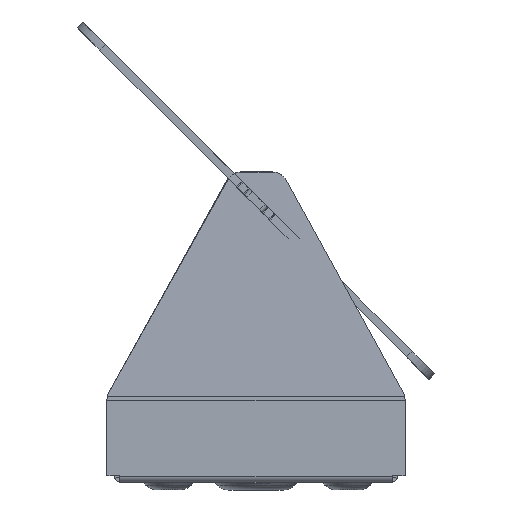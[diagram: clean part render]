
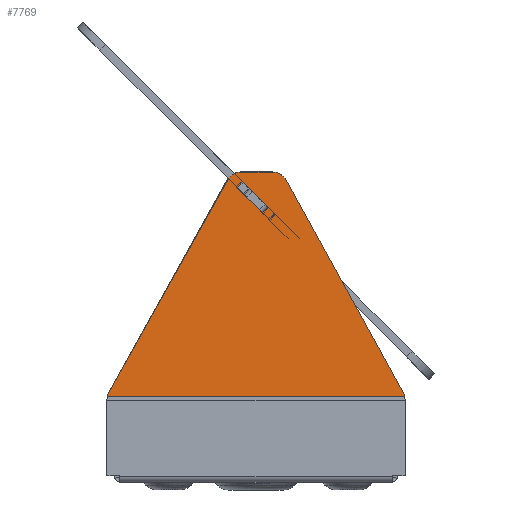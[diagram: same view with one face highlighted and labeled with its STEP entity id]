
A CAD part, left-side view. The second image highlights one B-rep face of the part: STEP entity #7769.
In plain terms, the highlighted planar face has unit normal (-0.999, 0, 0.035).
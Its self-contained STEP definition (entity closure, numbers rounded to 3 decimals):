
#185 = DIRECTION ( 'NONE',  ( -0.035, 0., -0.999 ) ) ;
#370 = CARTESIAN_POINT ( 'NONE',  ( -159.696, -33.5, 20.525 ) ) ;
#527 = EDGE_CURVE ( 'NONE', #3625, #4977, #3661, .T. ) ;
#650 = DIRECTION ( 'NONE',  ( 0., -1., 0. ) ) ;
#734 = AXIS2_PLACEMENT_3D ( 'NONE', #2221, #2433, #2550 ) ;
#777 = CARTESIAN_POINT ( 'NONE',  ( -159.66, 37.5, 21.551 ) ) ;
#843 = LINE ( 'NONE', #777, #9489 ) ;
#1007 = EDGE_CURVE ( 'NONE', #4609, #4448, #1403, .T. ) ;
#1096 = LINE ( 'NONE', #1175, #9474 ) ;
#1175 = CARTESIAN_POINT ( 'NONE',  ( -159.659, 37.5, 21.576 ) ) ;
#1403 = CIRCLE ( 'NONE', #1431, 4. ) ;
#1431 = AXIS2_PLACEMENT_3D ( 'NONE', #2911, #8774, #3775 ) ;
#1455 = ORIENTED_EDGE ( 'NONE', *, *, #7277, .T. ) ;
#1505 = DIRECTION ( 'NONE',  ( -0.035, 0., -0.999 ) ) ;
#1915 = EDGE_LOOP ( 'NONE', ( #3419, #1455, #5306, #4728, #9329, #3934, #3586, #8441 ) ) ;
#1928 = VERTEX_POINT ( 'NONE', #10488 ) ;
#2221 = CARTESIAN_POINT ( 'NONE',  ( -159.696, 33.5, 20.511 ) ) ;
#2433 = DIRECTION ( 'NONE',  ( -0.999, 0., 0.035 ) ) ;
#2550 = DIRECTION ( 'NONE',  ( -0.035, 0., -0.999 ) ) ;
#2552 = CARTESIAN_POINT ( 'NONE',  ( -157.692, -6.5, 77.917 ) ) ;
#2622 = DIRECTION ( 'NONE',  ( 0.999, 0., -0.035 ) ) ;
#2787 = CARTESIAN_POINT ( 'NONE',  ( -159.659, -37.359, 21.576 ) ) ;
#2911 = CARTESIAN_POINT ( 'NONE',  ( -157.831, 3.652, 73.92 ) ) ;
#2972 = CARTESIAN_POINT ( 'NONE',  ( -159.629, -37.005, 22.451 ) ) ;
#3419 = ORIENTED_EDGE ( 'NONE', *, *, #527, .T. ) ;
#3441 = VECTOR ( 'NONE', #650, 1000. ) ;
#3586 = ORIENTED_EDGE ( 'NONE', *, *, #1007, .T. ) ;
#3625 = VERTEX_POINT ( 'NONE', #5067 ) ;
#3661 = CIRCLE ( 'NONE', #734, 4. ) ;
#3775 = DIRECTION ( 'NONE',  ( -0.035, 0., -0.999 ) ) ;
#3934 = ORIENTED_EDGE ( 'NONE', *, *, #4089, .F. ) ;
#4089 = EDGE_CURVE ( 'NONE', #4609, #5805, #10110, .T. ) ;
#4161 = DIRECTION ( 'NONE',  ( -0.999, 0., 0.035 ) ) ;
#4373 = CARTESIAN_POINT ( 'NONE',  ( -160.358, 37.5, 1.564 ) ) ;
#4448 = VERTEX_POINT ( 'NONE', #9193 ) ;
#4567 = CARTESIAN_POINT ( 'NONE',  ( -157.692, -4.134, 77.917 ) ) ;
#4609 = VERTEX_POINT ( 'NONE', #5305 ) ;
#4728 = ORIENTED_EDGE ( 'NONE', *, *, #5244, .F. ) ;
#4977 = VERTEX_POINT ( 'NONE', #5475 ) ;
#5067 = CARTESIAN_POINT ( 'NONE',  ( -159.628, 36.992, 22.46 ) ) ;
#5192 = PLANE ( 'NONE',  #9461 ) ;
#5244 = EDGE_CURVE ( 'NONE', #1928, #6412, #8873, .T. ) ;
#5305 = CARTESIAN_POINT ( 'NONE',  ( -157.692, 3.652, 77.917 ) ) ;
#5306 = ORIENTED_EDGE ( 'NONE', *, *, #9392, .T. ) ;
#5342 = DIRECTION ( 'NONE',  ( 0., -1., 0. ) ) ;
#5475 = CARTESIAN_POINT ( 'NONE',  ( -159.659, 37.355, 21.576 ) ) ;
#5477 = EDGE_CURVE ( 'NONE', #1928, #5805, #8207, .T. ) ;
#5805 = VERTEX_POINT ( 'NONE', #4567 ) ;
#6412 = VERTEX_POINT ( 'NONE', #2972 ) ;
#6503 = DIRECTION ( 'NONE',  ( -0.999, 0., 0.035 ) ) ;
#6626 = VECTOR ( 'NONE', #8418, 1000. ) ;
#6937 = CIRCLE ( 'NONE', #8359, 4. ) ;
#7040 = EDGE_CURVE ( 'NONE', #3625, #4448, #843, .T. ) ;
#7277 = EDGE_CURVE ( 'NONE', #4977, #9337, #1096, .T. ) ;
#7386 = FACE_OUTER_BOUND ( 'NONE', #1915, .T. ) ;
#7472 = AXIS2_PLACEMENT_3D ( 'NONE', #9154, #4161, #9988 ) ;
#7769 = ADVANCED_FACE ( 'NONE', ( #7386 ), #5192, .F. ) ;
#8204 = CARTESIAN_POINT ( 'NONE',  ( -157.692, 6., 77.917 ) ) ;
#8207 = CIRCLE ( 'NONE', #7472, 4. ) ;
#8359 = AXIS2_PLACEMENT_3D ( 'NONE', #370, #6503, #1505 ) ;
#8418 = DIRECTION ( 'NONE',  ( -0.031, -0.482, -0.876 ) ) ;
#8441 = ORIENTED_EDGE ( 'NONE', *, *, #7040, .F. ) ;
#8774 = DIRECTION ( 'NONE',  ( -0.999, 0., 0.035 ) ) ;
#8873 = LINE ( 'NONE', #2552, #6626 ) ;
#9154 = CARTESIAN_POINT ( 'NONE',  ( -157.831, -4.134, 73.92 ) ) ;
#9172 = DIRECTION ( 'NONE',  ( 0.03, -0.488, 0.873 ) ) ;
#9193 = CARTESIAN_POINT ( 'NONE',  ( -157.763, 7.145, 75.869 ) ) ;
#9329 = ORIENTED_EDGE ( 'NONE', *, *, #5477, .T. ) ;
#9337 = VERTEX_POINT ( 'NONE', #2787 ) ;
#9392 = EDGE_CURVE ( 'NONE', #9337, #6412, #6937, .T. ) ;
#9461 = AXIS2_PLACEMENT_3D ( 'NONE', #4373, #2622, #185 ) ;
#9474 = VECTOR ( 'NONE', #5342, 1000. ) ;
#9489 = VECTOR ( 'NONE', #9172, 1000. ) ;
#9988 = DIRECTION ( 'NONE',  ( -0.035, 0., -0.999 ) ) ;
#10110 = LINE ( 'NONE', #8204, #3441 ) ;
#10488 = CARTESIAN_POINT ( 'NONE',  ( -157.764, -7.64, 75.845 ) ) ;
